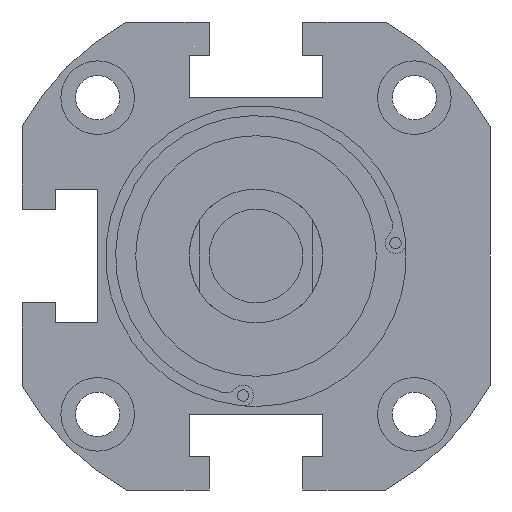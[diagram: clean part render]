
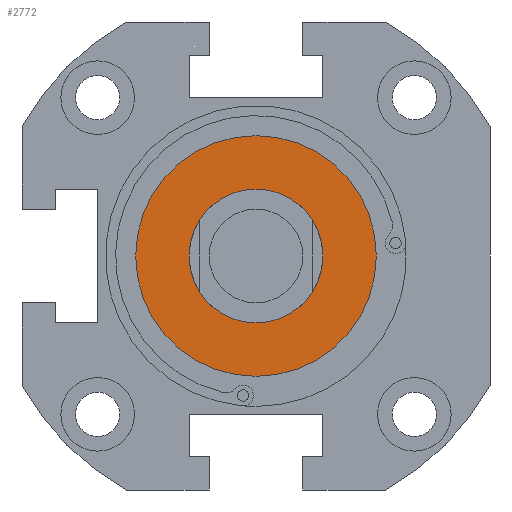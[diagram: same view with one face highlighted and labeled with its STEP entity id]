
A CAD part, front view. The second image highlights one B-rep face of the part: STEP entity #2772.
In plain terms, the highlighted planar face has unit normal (0, -1, 0).
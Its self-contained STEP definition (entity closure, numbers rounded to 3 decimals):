
#286 = VERTEX_POINT ( 'NONE', #1842 ) ;
#364 = CIRCLE ( 'NONE', #962, 18. ) ;
#441 = ORIENTED_EDGE ( 'NONE', *, *, #1994, .T. ) ;
#577 = EDGE_CURVE ( 'NONE', #3761, #4038, #794, .T. ) ;
#627 = CARTESIAN_POINT ( 'NONE',  ( 0., -45., -18. ) ) ;
#663 = EDGE_CURVE ( 'NONE', #1068, #286, #1661, .T. ) ;
#748 = EDGE_CURVE ( 'NONE', #4038, #3761, #364, .T. ) ;
#793 = DIRECTION ( 'NONE',  ( 0., 1., 0. ) ) ;
#794 = CIRCLE ( 'NONE', #3969, 18. ) ;
#962 = AXIS2_PLACEMENT_3D ( 'NONE', #3160, #793, #1499 ) ;
#1068 = VERTEX_POINT ( 'NONE', #2176 ) ;
#1076 = CARTESIAN_POINT ( 'NONE',  ( 0., -45., 0. ) ) ;
#1127 = AXIS2_PLACEMENT_3D ( 'NONE', #4417, #4389, #1979 ) ;
#1364 = EDGE_LOOP ( 'NONE', ( #1930, #1483 ) ) ;
#1388 = FACE_OUTER_BOUND ( 'NONE', #1364, .T. ) ;
#1483 = ORIENTED_EDGE ( 'NONE', *, *, #577, .F. ) ;
#1499 = DIRECTION ( 'NONE',  ( 0., 0., 1. ) ) ;
#1541 = AXIS2_PLACEMENT_3D ( 'NONE', #2511, #3905, #2181 ) ;
#1661 = CIRCLE ( 'NONE', #1755, 10. ) ;
#1752 = DIRECTION ( 'NONE',  ( 0., 1., 0. ) ) ;
#1755 = AXIS2_PLACEMENT_3D ( 'NONE', #1076, #1752, #2103 ) ;
#1842 = CARTESIAN_POINT ( 'NONE',  ( 0., -45., 10. ) ) ;
#1930 = ORIENTED_EDGE ( 'NONE', *, *, #748, .F. ) ;
#1979 = DIRECTION ( 'NONE',  ( 0., 0., 1. ) ) ;
#1994 = EDGE_CURVE ( 'NONE', #286, #1068, #3350, .T. ) ;
#2103 = DIRECTION ( 'NONE',  ( 0., 0., 1. ) ) ;
#2176 = CARTESIAN_POINT ( 'NONE',  ( 0., -45., -10. ) ) ;
#2181 = DIRECTION ( 'NONE',  ( 0., 0., 1. ) ) ;
#2225 = CARTESIAN_POINT ( 'NONE',  ( 0., -45., 18. ) ) ;
#2511 = CARTESIAN_POINT ( 'NONE',  ( 0., -45., 0. ) ) ;
#2772 = ADVANCED_FACE ( 'NONE', ( #1388, #3789 ), #3362, .F. ) ;
#3160 = CARTESIAN_POINT ( 'NONE',  ( 0., -45., 0. ) ) ;
#3350 = CIRCLE ( 'NONE', #1541, 10. ) ;
#3362 = PLANE ( 'NONE',  #1127 ) ;
#3447 = DIRECTION ( 'NONE',  ( 0., 0., 1. ) ) ;
#3761 = VERTEX_POINT ( 'NONE', #2225 ) ;
#3789 = FACE_BOUND ( 'NONE', #4361, .T. ) ;
#3905 = DIRECTION ( 'NONE',  ( 0., 1., 0. ) ) ;
#3969 = AXIS2_PLACEMENT_3D ( 'NONE', #4110, #4453, #3447 ) ;
#4038 = VERTEX_POINT ( 'NONE', #627 ) ;
#4110 = CARTESIAN_POINT ( 'NONE',  ( 0., -45., 0. ) ) ;
#4353 = ORIENTED_EDGE ( 'NONE', *, *, #663, .T. ) ;
#4361 = EDGE_LOOP ( 'NONE', ( #441, #4353 ) ) ;
#4389 = DIRECTION ( 'NONE',  ( 0., 1., 0. ) ) ;
#4417 = CARTESIAN_POINT ( 'NONE',  ( 0., -45., 0. ) ) ;
#4453 = DIRECTION ( 'NONE',  ( 0., 1., 0. ) ) ;
